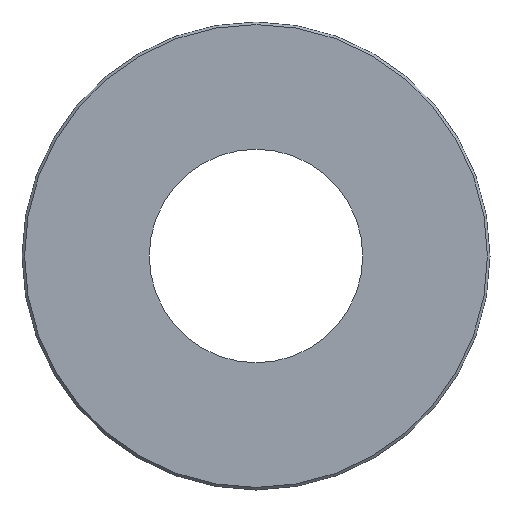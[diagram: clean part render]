
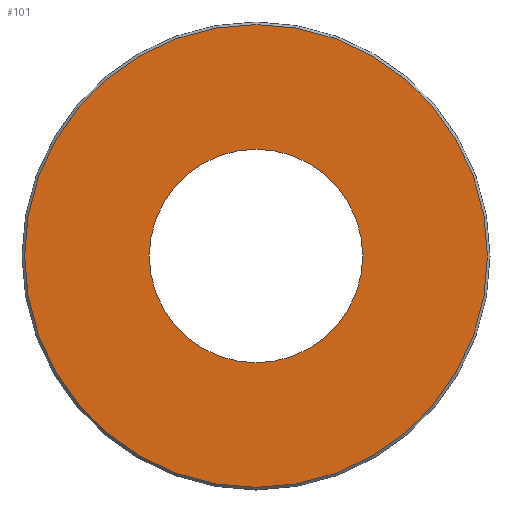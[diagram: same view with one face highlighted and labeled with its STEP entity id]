
A CAD part, front view. The second image highlights one B-rep face of the part: STEP entity #101.
In plain terms, the highlighted planar face has unit normal (0, -1, 0).
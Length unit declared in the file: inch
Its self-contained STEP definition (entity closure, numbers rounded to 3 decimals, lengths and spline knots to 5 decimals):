
#16=FACE_BOUND('',#33,.T.);
#18=PLANE('',#128);
#25=FACE_OUTER_BOUND('',#32,.T.);
#32=EDGE_LOOP('',(#89));
#33=EDGE_LOOP('',(#90));
#49=CIRCLE('',#127,0.271);
#50=CIRCLE('',#129,0.125);
#57=VERTEX_POINT('',#184);
#58=VERTEX_POINT('',#188);
#68=EDGE_CURVE('',#57,#57,#49,.T.);
#69=EDGE_CURVE('',#58,#58,#50,.T.);
#89=ORIENTED_EDGE('',*,*,#68,.F.);
#90=ORIENTED_EDGE('',*,*,#69,.T.);
#101=ADVANCED_FACE('',(#25,#16),#18,.T.);
#127=AXIS2_PLACEMENT_3D('',#186,#156,#157);
#128=AXIS2_PLACEMENT_3D('',#187,#158,#159);
#129=AXIS2_PLACEMENT_3D('',#189,#160,#161);
#156=DIRECTION('center_axis',(0.,1.,0.));
#157=DIRECTION('ref_axis',(1.,0.,0.));
#158=DIRECTION('center_axis',(0.,-1.,0.));
#159=DIRECTION('ref_axis',(0.,0.,-1.));
#160=DIRECTION('center_axis',(0.,1.,0.));
#161=DIRECTION('ref_axis',(1.,0.,0.));
#184=CARTESIAN_POINT('',(-0.271,0.,0.));
#186=CARTESIAN_POINT('Origin',(0.,0.,
0.));
#187=CARTESIAN_POINT('Origin',(-0.274,0.,0.));
#188=CARTESIAN_POINT('',(0.125,0.,0.));
#189=CARTESIAN_POINT('Origin',(0.,0.,
0.));
